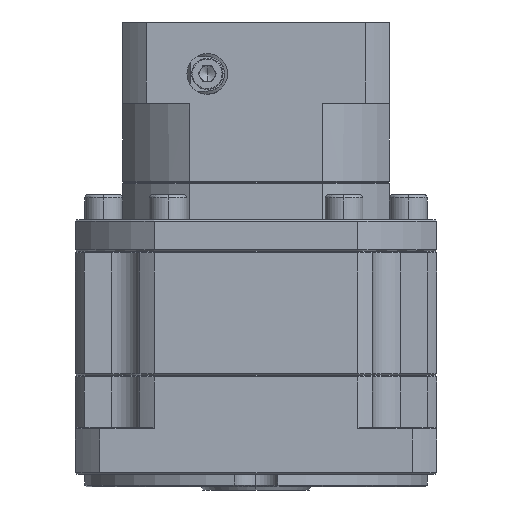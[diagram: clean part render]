
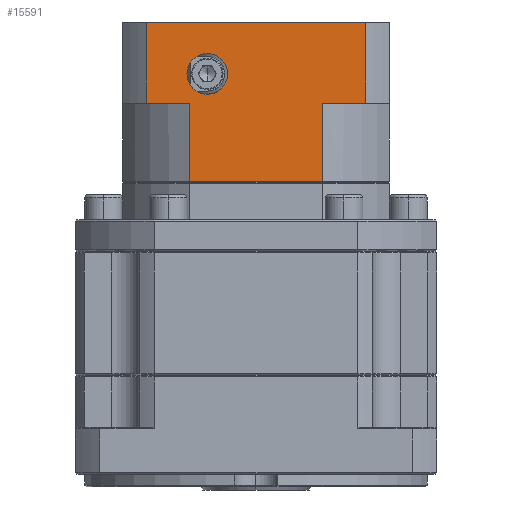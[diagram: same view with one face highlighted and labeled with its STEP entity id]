
A CAD part, front view. The second image highlights one B-rep face of the part: STEP entity #15591.
In plain terms, the highlighted planar face has unit normal (0, -1, 0).
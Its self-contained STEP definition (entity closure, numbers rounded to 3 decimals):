
#518 = CARTESIAN_POINT ( 'NONE',  ( 66.472, 4.109, -37.235 ) ) ;
#2421 = ORIENTED_EDGE ( 'NONE', *, *, #73542, .F. ) ;
#2551 = LINE ( 'NONE', #48898, #123245 ) ;
#4162 = VERTEX_POINT ( 'NONE', #71058 ) ;
#4878 = VECTOR ( 'NONE', #62012, 1000. ) ;
#6235 = FACE_BOUND ( 'NONE', #96729, .T. ) ;
#11478 = PLANE ( 'NONE',  #101042 ) ;
#12615 = LINE ( 'NONE', #111312, #90435 ) ;
#13949 = CARTESIAN_POINT ( 'NONE',  ( 47.061, 4.109, -46.585 ) ) ;
#14939 = ORIENTED_EDGE ( 'NONE', *, *, #57930, .F. ) ;
#15591 = ADVANCED_FACE ( 'NONE', ( #71370, #6235 ), #11478, .F. ) ;
#17633 = DIRECTION ( 'NONE',  ( 0., 0., 1. ) ) ;
#18940 = VERTEX_POINT ( 'NONE', #108087 ) ;
#20550 = AXIS2_PLACEMENT_3D ( 'NONE', #78383, #30020, #47371 ) ;
#21533 = ORIENTED_EDGE ( 'NONE', *, *, #42328, .F. ) ;
#21691 = CARTESIAN_POINT ( 'NONE',  ( 103.185, 4.109, -71.735 ) ) ;
#21800 = DIRECTION ( 'NONE',  ( 0., 0., 1. ) ) ;
#24910 = CARTESIAN_POINT ( 'NONE',  ( 116.882, 4.109, -46.585 ) ) ;
#24914 = VERTEX_POINT ( 'NONE', #70502 ) ;
#29339 = CARTESIAN_POINT ( 'NONE',  ( 103.185, 4.109, -46.585 ) ) ;
#30020 = DIRECTION ( 'NONE',  ( 0., -1., 0. ) ) ;
#30256 = VERTEX_POINT ( 'NONE', #104248 ) ;
#30572 = EDGE_CURVE ( 'NONE', #45032, #127213, #12615, .T. ) ;
#31532 = EDGE_CURVE ( 'NONE', #95175, #30256, #2551, .T. ) ;
#32875 = ORIENTED_EDGE ( 'NONE', *, *, #81635, .F. ) ;
#33128 = CIRCLE ( 'NONE', #20550, 6.5 ) ;
#34390 = DIRECTION ( 'NONE',  ( 1., 0., 0. ) ) ;
#34628 = CARTESIAN_POINT ( 'NONE',  ( 47.061, 4.109, -20.885 ) ) ;
#34746 = CARTESIAN_POINT ( 'NONE',  ( 66.472, 4.109, -43.735 ) ) ;
#35292 = CARTESIAN_POINT ( 'NONE',  ( 60.758, 4.109, -46.585 ) ) ;
#38240 = VERTEX_POINT ( 'NONE', #24910 ) ;
#41253 = DIRECTION ( 'NONE',  ( 0., 1., 0. ) ) ;
#42328 = EDGE_CURVE ( 'NONE', #118498, #4162, #102873, .T. ) ;
#43397 = EDGE_CURVE ( 'NONE', #4162, #118498, #33128, .T. ) ;
#44332 = CARTESIAN_POINT ( 'NONE',  ( 103.185, 4.109, -71.735 ) ) ;
#45032 = VERTEX_POINT ( 'NONE', #13949 ) ;
#46564 = CARTESIAN_POINT ( 'NONE',  ( 60.758, 4.109, -71.735 ) ) ;
#46876 = AXIS2_PLACEMENT_3D ( 'NONE', #518, #103886, #21800 ) ;
#47371 = DIRECTION ( 'NONE',  ( 0., 0., 1. ) ) ;
#47483 = EDGE_CURVE ( 'NONE', #24914, #95175, #106375, .T. ) ;
#47522 = EDGE_CURVE ( 'NONE', #18940, #38240, #63575, .T. ) ;
#48898 = CARTESIAN_POINT ( 'NONE',  ( 81.972, 4.109, -71.485 ) ) ;
#51478 = DIRECTION ( 'NONE',  ( 0., 0., -1. ) ) ;
#53831 = EDGE_CURVE ( 'NONE', #30256, #80528, #124285, .T. ) ;
#57930 = EDGE_CURVE ( 'NONE', #38240, #24914, #120868, .T. ) ;
#60449 = DIRECTION ( 'NONE',  ( -1., 0., 0. ) ) ;
#61150 = CARTESIAN_POINT ( 'NONE',  ( 103.185, 4.109, -46.585 ) ) ;
#61609 = LINE ( 'NONE', #29339, #78982 ) ;
#62012 = DIRECTION ( 'NONE',  ( -1., 0., 0. ) ) ;
#63575 = LINE ( 'NONE', #73604, #120712 ) ;
#67109 = VECTOR ( 'NONE', #17633, 1000. ) ;
#70502 = CARTESIAN_POINT ( 'NONE',  ( 103.185, 4.109, -46.585 ) ) ;
#70699 = ORIENTED_EDGE ( 'NONE', *, *, #30572, .F. ) ;
#71058 = CARTESIAN_POINT ( 'NONE',  ( 66.472, 4.109, -30.735 ) ) ;
#71260 = CARTESIAN_POINT ( 'NONE',  ( 103.185, 4.109, -20.885 ) ) ;
#71370 = FACE_OUTER_BOUND ( 'NONE', #117262, .T. ) ;
#73542 = EDGE_CURVE ( 'NONE', #80528, #45032, #61609, .T. ) ;
#73604 = CARTESIAN_POINT ( 'NONE',  ( 116.882, 4.109, -71.735 ) ) ;
#78383 = CARTESIAN_POINT ( 'NONE',  ( 66.472, 4.109, -37.235 ) ) ;
#78982 = VECTOR ( 'NONE', #60449, 1000. ) ;
#80528 = VERTEX_POINT ( 'NONE', #35292 ) ;
#80537 = ORIENTED_EDGE ( 'NONE', *, *, #31532, .F. ) ;
#81549 = DIRECTION ( 'NONE',  ( 0., 0., 1. ) ) ;
#81635 = EDGE_CURVE ( 'NONE', #127213, #18940, #95980, .T. ) ;
#90435 = VECTOR ( 'NONE', #81549, 1000. ) ;
#92166 = ORIENTED_EDGE ( 'NONE', *, *, #53831, .F. ) ;
#95175 = VERTEX_POINT ( 'NONE', #130755 ) ;
#95980 = LINE ( 'NONE', #71260, #120896 ) ;
#96729 = EDGE_LOOP ( 'NONE', ( #98412, #21533 ) ) ;
#98412 = ORIENTED_EDGE ( 'NONE', *, *, #43397, .F. ) ;
#98623 = ORIENTED_EDGE ( 'NONE', *, *, #47483, .F. ) ;
#100040 = VECTOR ( 'NONE', #104159, 1000. ) ;
#101042 = AXIS2_PLACEMENT_3D ( 'NONE', #21691, #41253, #51478 ) ;
#102873 = CIRCLE ( 'NONE', #46876, 6.5 ) ;
#103750 = DIRECTION ( 'NONE',  ( 0., 0., -1. ) ) ;
#103886 = DIRECTION ( 'NONE',  ( 0., -1., 0. ) ) ;
#104159 = DIRECTION ( 'NONE',  ( 0., 0., -1. ) ) ;
#104248 = CARTESIAN_POINT ( 'NONE',  ( 60.758, 4.109, -71.485 ) ) ;
#106375 = LINE ( 'NONE', #44332, #100040 ) ;
#108087 = CARTESIAN_POINT ( 'NONE',  ( 116.882, 4.109, -20.885 ) ) ;
#111312 = CARTESIAN_POINT ( 'NONE',  ( 47.061, 4.109, -71.735 ) ) ;
#117262 = EDGE_LOOP ( 'NONE', ( #32875, #70699, #2421, #92166, #80537, #98623, #14939, #121948 ) ) ;
#118498 = VERTEX_POINT ( 'NONE', #34746 ) ;
#120712 = VECTOR ( 'NONE', #103750, 1000. ) ;
#120868 = LINE ( 'NONE', #61150, #4878 ) ;
#120896 = VECTOR ( 'NONE', #34390, 1000. ) ;
#121948 = ORIENTED_EDGE ( 'NONE', *, *, #47522, .F. ) ;
#123245 = VECTOR ( 'NONE', #130989, 1000. ) ;
#124285 = LINE ( 'NONE', #46564, #67109 ) ;
#127213 = VERTEX_POINT ( 'NONE', #34628 ) ;
#130755 = CARTESIAN_POINT ( 'NONE',  ( 103.185, 4.109, -71.485 ) ) ;
#130989 = DIRECTION ( 'NONE',  ( -1., 0., 0. ) ) ;
